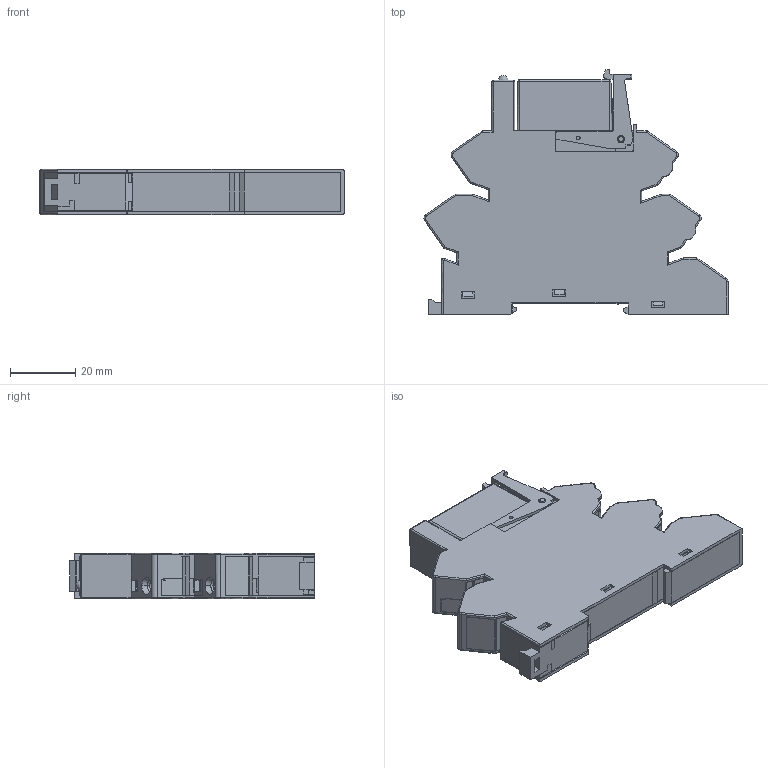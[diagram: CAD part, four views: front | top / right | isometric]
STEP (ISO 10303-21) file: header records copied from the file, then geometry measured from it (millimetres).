
FILE_DESCRIPTION(('STEP AP214'),'2;1');
FILE_NAME('3862_05-2020.stp','2020-05-21T08:11:50',(''),(''),'2007.1.106','THINKDESIGN','');
FILE_SCHEMA(('AUTOMOTIVE_DESIGN'));
Length unit declared in the file: millimetre
Products named in the file (1): top
Bounding box: 93 x 74.9 x 14 mm (x, y, z)
Surface area: 34205.7 mm2 (no closed solid volume)
Topology: 0 solids, 0 shells, 919 faces, 5664 edges, 5656 vertices
Faces by surface type: bspline 919
Entity records: 33453 total; most frequent: CARTESIAN_POINT 19307, COMPOSITE_CURVE_SEGMENT 5656, QUASI_UNIFORM_CURVE 4229, OUTER_BOUNDARY_CURVE 919, CURVE_BOUNDED_SURFACE 919, STYLED_ITEM 919, B_SPLINE_CURVE_WITH_KNOTS 721, B_SPLINE_SURFACE_WITH_KNOTS 660
